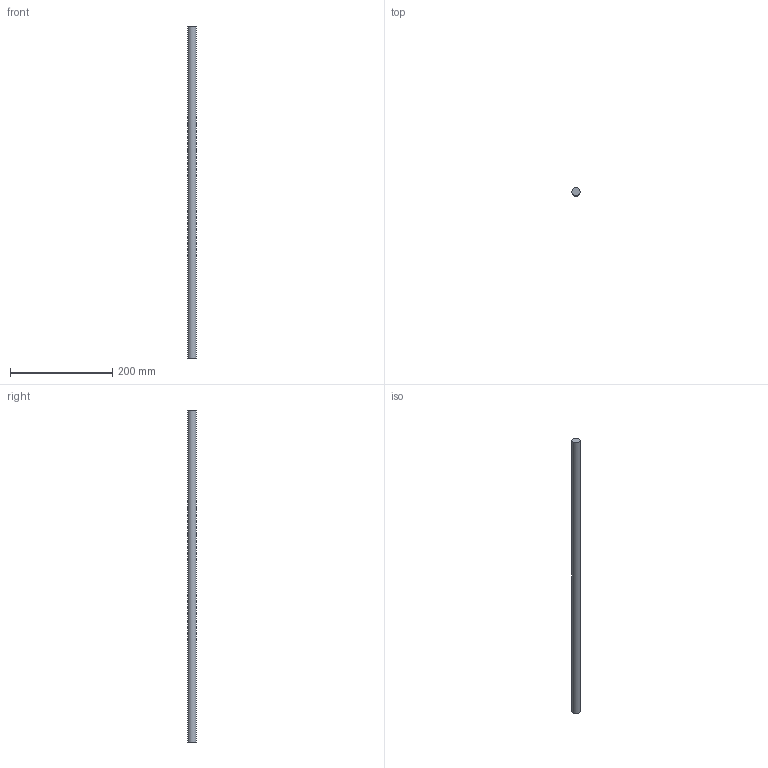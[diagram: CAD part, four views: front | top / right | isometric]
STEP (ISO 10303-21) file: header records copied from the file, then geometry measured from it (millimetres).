
FILE_DESCRIPTION(/* description */ (''),/* implementation_level */ '2;1');
FILE_NAME(/* name */ 'C:\Users\David\Desktop\stepFiles\Profilfuehrung\WF16x650.stp',/* time_stamp */ '2018-06-24T15:46:54+02:00',/* author */ ('David'),/* organization */ (''),/* preprocessor_version */ 'ST-DEVELOPER v17',/* originating_system */ 'Autodesk Inventor 2019',/* authorisation */ '');
FILE_SCHEMA (('AUTOMOTIVE_DESIGN { 1 0 10303 214 3 1 1 }'));
Length unit declared in the file: millimetre
Products named in the file (1): Wellenfuehrung
Bounding box: 16 x 16 x 650 mm (x, y, z)
Volume: 130690.3 mm3; surface area: 33074.7 mm2
Topology: 1 solids, 1 shells, 3 faces, 3 edges, 2 vertices
Faces by surface type: plane 2, cylinder 1
Full cylindrical faces by diameter (mm): 16 x1
Entity records: 98 total; most frequent: DIRECTION 13, CARTESIAN_POINT 9, ORIENTED_EDGE 6, AXIS2_PLACEMENT_3D 6, FACE_OUTER_BOUND 3, EDGE_LOOP 3, EDGE_CURVE 3, ADVANCED_FACE 3
